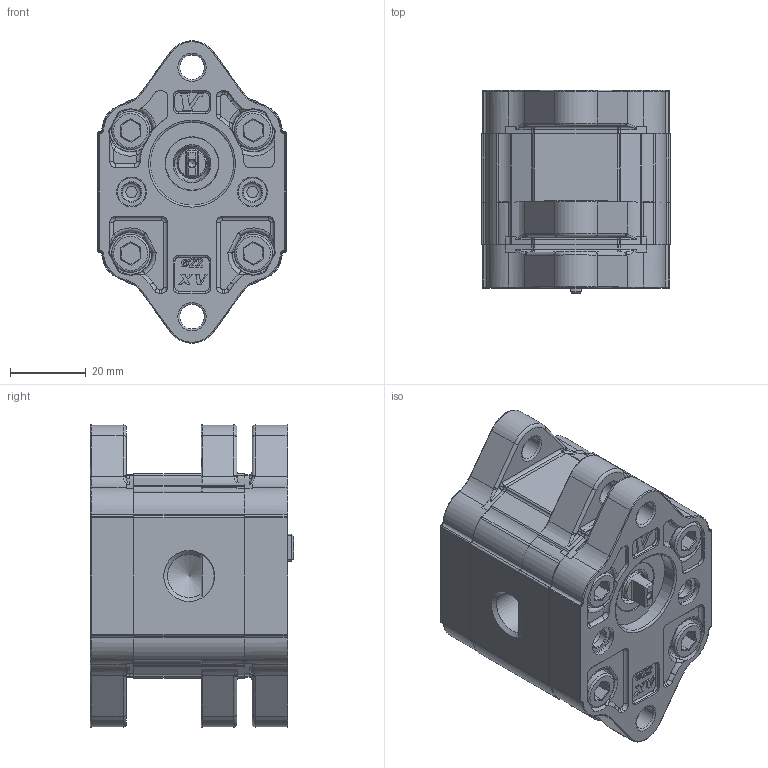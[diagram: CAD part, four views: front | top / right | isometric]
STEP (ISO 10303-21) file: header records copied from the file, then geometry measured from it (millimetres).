
FILE_DESCRIPTION( ( 'Unknown' ), '1' );
FILE_NAME( 'P:/montaggio_easy/output/STP/X0I0121MBBA.stp', 'Unknown', ( 'Unknown' ), ( 'Unknown' ), 'PSStep 14.0', 'Unknown', ' ' );
FILE_SCHEMA( ( 'AUTOMOTIVE_DESIGN { 1 0 10303 214 1 1 1 1 }' ) );
Length unit declared in the file: millimetre
Products named in the file (5): Assem1; X0I21; 0M; X0BBH29,3; XI001-A
Bounding box: 50 x 53.8 x 79.95 mm (x, y, z)
Surface area: 72558 mm2
Topology: 8 solids, 14 shells, 2214 faces, 5808 edges, 3652 vertices
Faces by surface type: plane 860, cylinder 668, torus 298, cone 150, bspline 150, extrusion 72, sphere 16
Full cylindrical faces by diameter (mm): 2 x4, 3.233 x2, 5 x8, 6.107 x2, 6.5 x12, 7.16 x4, 7.5 x4, 7.9 x8, 7.92 x2, 10 x8, 11.445 x4, 13.178 x2, 14 x4, 22 x4
Entity records: 47922 total; most frequent: CARTESIAN_POINT 12406, DIRECTION 5588, ORIENTED_EDGE 5530, EDGE_CURVE 2765, AXIS2_PLACEMENT_3D 2137, VERTEX_POINT 1788, VECTOR 1314, LINE 1278
